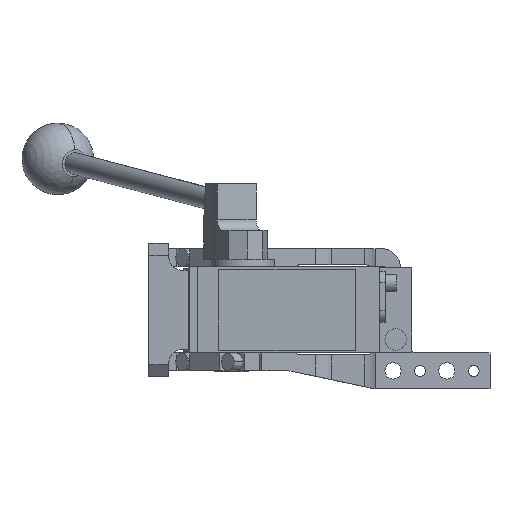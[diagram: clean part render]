
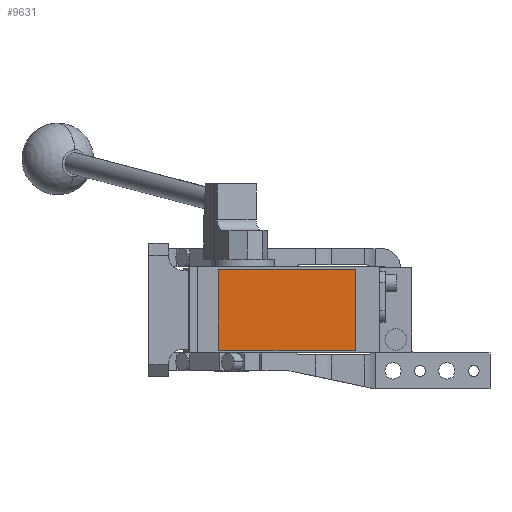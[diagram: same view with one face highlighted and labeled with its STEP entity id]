
A CAD part, front view. The second image highlights one B-rep face of the part: STEP entity #9631.
In plain terms, the highlighted planar face has unit normal (0, -1, 0).
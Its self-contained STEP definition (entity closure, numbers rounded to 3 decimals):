
#58 = CARTESIAN_POINT ( 'NONE',  ( 0., -280.5, 0. ) ) ;
#615 = CARTESIAN_POINT ( 'NONE',  ( 69., -280.5, 22.5 ) ) ;
#633 = LINE ( 'NONE', #3076, #11510 ) ;
#1483 = CARTESIAN_POINT ( 'NONE',  ( -7., -280.5, 22.5 ) ) ;
#1698 = VERTEX_POINT ( 'NONE', #1990 ) ;
#1990 = CARTESIAN_POINT ( 'NONE',  ( 69., -280.5, -22.5 ) ) ;
#2084 = VERTEX_POINT ( 'NONE', #6533 ) ;
#2136 = ORIENTED_EDGE ( 'NONE', *, *, #13987, .T. ) ;
#2544 = VECTOR ( 'NONE', #6827, 1000. ) ;
#2911 = LINE ( 'NONE', #12576, #9145 ) ;
#3076 = CARTESIAN_POINT ( 'NONE',  ( -7., -280.5, -22.5 ) ) ;
#3115 = EDGE_CURVE ( 'NONE', #12352, #10285, #15277, .T. ) ;
#6069 = EDGE_LOOP ( 'NONE', ( #7971, #2136, #10123, #15491 ) ) ;
#6533 = CARTESIAN_POINT ( 'NONE',  ( -7., -280.5, -22.5 ) ) ;
#6682 = CARTESIAN_POINT ( 'NONE',  ( -7., -280.5, 22.5 ) ) ;
#6827 = DIRECTION ( 'NONE',  ( -1., 0., 0. ) ) ;
#6974 = DIRECTION ( 'NONE',  ( 1., 0., 0. ) ) ;
#7305 = PLANE ( 'NONE',  #11976 ) ;
#7971 = ORIENTED_EDGE ( 'NONE', *, *, #14395, .T. ) ;
#9145 = VECTOR ( 'NONE', #11346, 1000. ) ;
#9631 = ADVANCED_FACE ( 'NONE', ( #16081 ), #7305, .T. ) ;
#9682 = VECTOR ( 'NONE', #13900, 1000. ) ;
#9749 = DIRECTION ( 'NONE',  ( 0., -1., 0. ) ) ;
#9818 = EDGE_CURVE ( 'NONE', #1698, #12352, #2911, .T. ) ;
#10123 = ORIENTED_EDGE ( 'NONE', *, *, #9818, .T. ) ;
#10285 = VERTEX_POINT ( 'NONE', #1483 ) ;
#11346 = DIRECTION ( 'NONE',  ( 0., 0., 1. ) ) ;
#11510 = VECTOR ( 'NONE', #6974, 1000. ) ;
#11607 = CARTESIAN_POINT ( 'NONE',  ( -7., -280.5, 22.5 ) ) ;
#11976 = AXIS2_PLACEMENT_3D ( 'NONE', #58, #9749, #13462 ) ;
#12352 = VERTEX_POINT ( 'NONE', #615 ) ;
#12576 = CARTESIAN_POINT ( 'NONE',  ( 69., -280.5, 22.5 ) ) ;
#12606 = LINE ( 'NONE', #6682, #9682 ) ;
#13462 = DIRECTION ( 'NONE',  ( 0., 0., -1. ) ) ;
#13900 = DIRECTION ( 'NONE',  ( 0., 0., -1. ) ) ;
#13987 = EDGE_CURVE ( 'NONE', #2084, #1698, #633, .T. ) ;
#14395 = EDGE_CURVE ( 'NONE', #10285, #2084, #12606, .T. ) ;
#15277 = LINE ( 'NONE', #11607, #2544 ) ;
#15491 = ORIENTED_EDGE ( 'NONE', *, *, #3115, .T. ) ;
#16081 = FACE_OUTER_BOUND ( 'NONE', #6069, .T. ) ;
